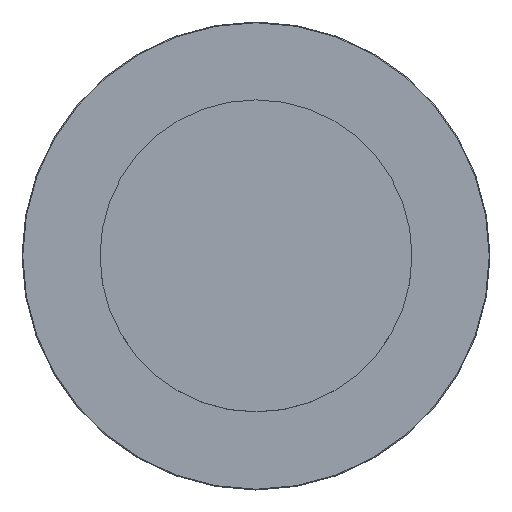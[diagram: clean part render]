
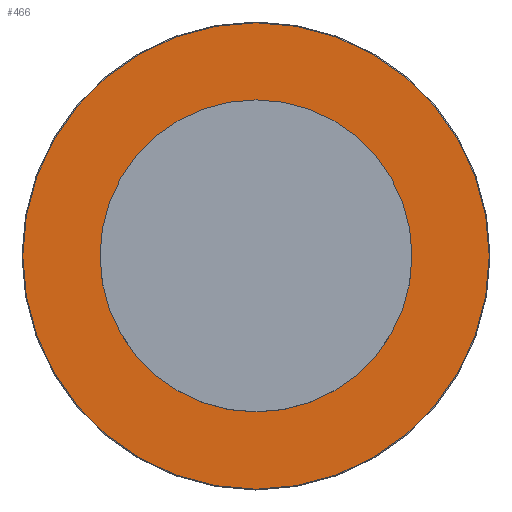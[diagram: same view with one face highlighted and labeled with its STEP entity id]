
A CAD part, top view. The second image highlights one B-rep face of the part: STEP entity #466.
In plain terms, the highlighted planar face has unit normal (0, 0, 1).
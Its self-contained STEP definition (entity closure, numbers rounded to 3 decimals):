
#1 = DIRECTION ( 'NONE',  ( 0., 0., 1. ) ) ;
#246 = CARTESIAN_POINT ( 'NONE',  ( 0., 0., -10. ) ) ;
#266 = DIRECTION ( 'NONE',  ( -1., 0., 0. ) ) ;
#279 = CARTESIAN_POINT ( 'NONE',  ( 149.5, 0., -10. ) ) ;
#296 = DIRECTION ( 'NONE',  ( 0., 0., -1. ) ) ;
#313 = AXIS2_PLACEMENT_3D ( 'NONE', #246, #858, #450 ) ;
#321 = AXIS2_PLACEMENT_3D ( 'NONE', #1108, #1110, #589 ) ;
#381 = CARTESIAN_POINT ( 'NONE',  ( 0., 0., -10. ) ) ;
#403 = CARTESIAN_POINT ( 'NONE',  ( 0., 0., -10. ) ) ;
#417 = FACE_OUTER_BOUND ( 'NONE', #518, .T. ) ;
#419 = AXIS2_PLACEMENT_3D ( 'NONE', #381, #1, #266 ) ;
#450 = DIRECTION ( 'NONE',  ( -1., 0., 0. ) ) ;
#466 = ADVANCED_FACE ( 'NONE', ( #417, #916 ), #1171, .F. ) ;
#508 = DIRECTION ( 'NONE',  ( -1., 0., 0. ) ) ;
#518 = EDGE_LOOP ( 'NONE', ( #1191, #667 ) ) ;
#548 = EDGE_LOOP ( 'NONE', ( #1144, #1273 ) ) ;
#558 = VERTEX_POINT ( 'NONE', #1283 ) ;
#559 = AXIS2_PLACEMENT_3D ( 'NONE', #403, #296, #508 ) ;
#589 = DIRECTION ( 'NONE',  ( -1., 0., 0. ) ) ;
#616 = VERTEX_POINT ( 'NONE', #279 ) ;
#623 = AXIS2_PLACEMENT_3D ( 'NONE', #713, #1229, #1014 ) ;
#659 = VERTEX_POINT ( 'NONE', #1094 ) ;
#661 = VERTEX_POINT ( 'NONE', #996 ) ;
#667 = ORIENTED_EDGE ( 'NONE', *, *, #942, .T. ) ;
#713 = CARTESIAN_POINT ( 'NONE',  ( 0., 0., -10. ) ) ;
#830 = EDGE_CURVE ( 'NONE', #558, #659, #1076, .T. ) ;
#831 = EDGE_CURVE ( 'NONE', #661, #616, #1159, .T. ) ;
#858 = DIRECTION ( 'NONE',  ( 0., 0., -1. ) ) ;
#916 = FACE_BOUND ( 'NONE', #548, .T. ) ;
#942 = EDGE_CURVE ( 'NONE', #616, #661, #1234, .T. ) ;
#972 = EDGE_CURVE ( 'NONE', #659, #558, #1153, .T. ) ;
#996 = CARTESIAN_POINT ( 'NONE',  ( -149.5, 0., -10. ) ) ;
#1014 = DIRECTION ( 'NONE',  ( -1., 0., 0. ) ) ;
#1076 = CIRCLE ( 'NONE', #559, 5. ) ;
#1094 = CARTESIAN_POINT ( 'NONE',  ( -5., 0., -10. ) ) ;
#1108 = CARTESIAN_POINT ( 'NONE',  ( 0., 0., -10. ) ) ;
#1110 = DIRECTION ( 'NONE',  ( 0., 0., 1. ) ) ;
#1144 = ORIENTED_EDGE ( 'NONE', *, *, #972, .T. ) ;
#1153 = CIRCLE ( 'NONE', #623, 5. ) ;
#1159 = CIRCLE ( 'NONE', #321, 149.5 ) ;
#1171 = PLANE ( 'NONE',  #313 ) ;
#1191 = ORIENTED_EDGE ( 'NONE', *, *, #831, .T. ) ;
#1229 = DIRECTION ( 'NONE',  ( 0., 0., -1. ) ) ;
#1234 = CIRCLE ( 'NONE', #419, 149.5 ) ;
#1273 = ORIENTED_EDGE ( 'NONE', *, *, #830, .T. ) ;
#1283 = CARTESIAN_POINT ( 'NONE',  ( 5., 0., -10. ) ) ;
